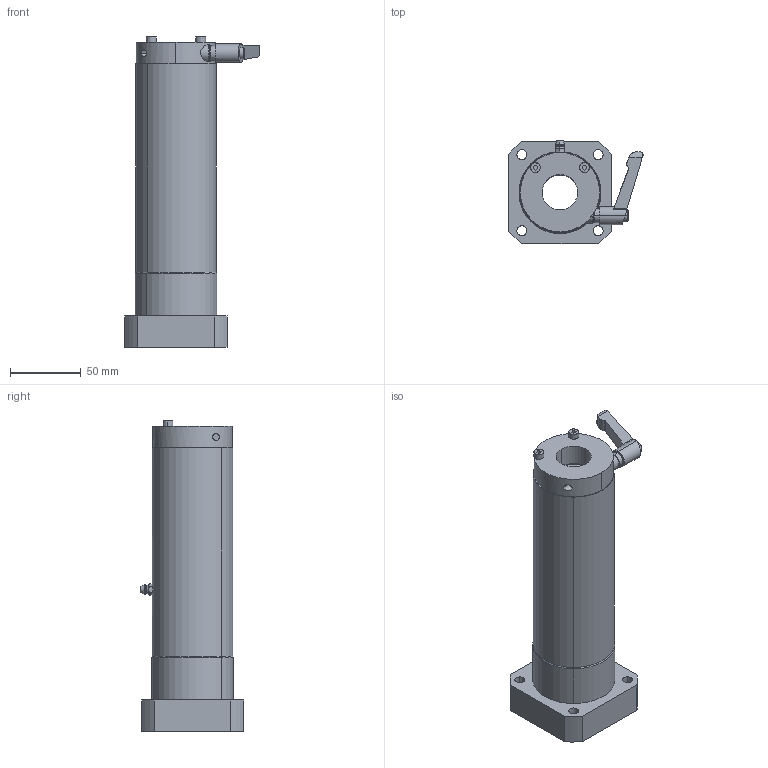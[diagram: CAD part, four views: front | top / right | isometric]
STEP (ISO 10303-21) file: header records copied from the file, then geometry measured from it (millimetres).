
FILE_DESCRIPTION (( 'STEP AP214' ), '1' );
FILE_NAME ('LFWL25A-C.STEP', '2023-06-27T02:34:53', ( '' ), ( '' ), 'SwSTEP 2.0', 'SolidWorks 2019', '' );
FILE_SCHEMA (( 'AUTOMOTIVE_DESIGN' ));
Length unit declared in the file: millimetre
Products named in the file (3): “ÁSCK2515CO-S4.5; LFWL25A; LFWL25A-C
Assembly tree (2 placements, depth 2):
  LFWL25A-C
    LFWL25A
    “ÁSCK2515CO-S4.5
Bounding box: 94.6 x 72.9 x 219 mm (x, y, z)
Volume: 494667.1 mm3; surface area: 84524.8 mm2
Topology: 3 solids, 9 shells, 237 faces, 595 edges, 373 vertices
Faces by surface type: cylinder 85, plane 71, bspline 47, cone 22, torus 8, sphere 4
Entity records: 10719 total; most frequent: CARTESIAN_POINT 2320, DIRECTION 1241, ORIENTED_EDGE 1186, EDGE_CURVE 593, AXIS2_PLACEMENT_3D 519, VERTEX_POINT 372, CIRCLE 324, EDGE_LOOP 283
